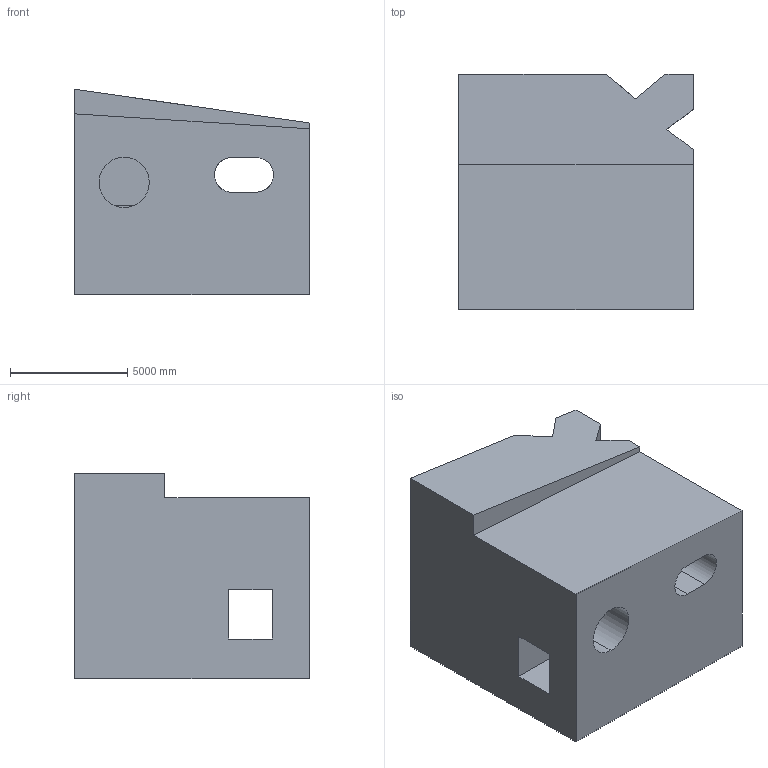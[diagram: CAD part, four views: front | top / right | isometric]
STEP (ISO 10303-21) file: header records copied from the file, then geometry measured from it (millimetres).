
FILE_DESCRIPTION (( 'STEP AP203' ), '1' );
FILE_NAME ('1860.STEP', '2022-08-26T10:45:09', ( 'user' ), ( '' ), 'SwSTEP 2.0', 'SolidWorks 2021', '' );
FILE_SCHEMA (( 'CONFIG_CONTROL_DESIGN' ));
Length unit declared in the file: centimetre
Products named in the file (1): 1860
Bounding box: 10000 x 10000 x 8758.71 mm (x, y, z)
Volume: 648742313546 mm3; surface area: 720472685 mm2
Topology: 1 solids, 1 shells, 32 faces, 90 edges, 60 vertices
Faces by surface type: plane 24, cylinder 8
Entity records: 1120 total; most frequent: CARTESIAN_POINT 192, ORIENTED_EDGE 180, DIRECTION 170, EDGE_CURVE 90, VECTOR 70, LINE 70, VERTEX_POINT 60, AXIS2_PLACEMENT_3D 50
